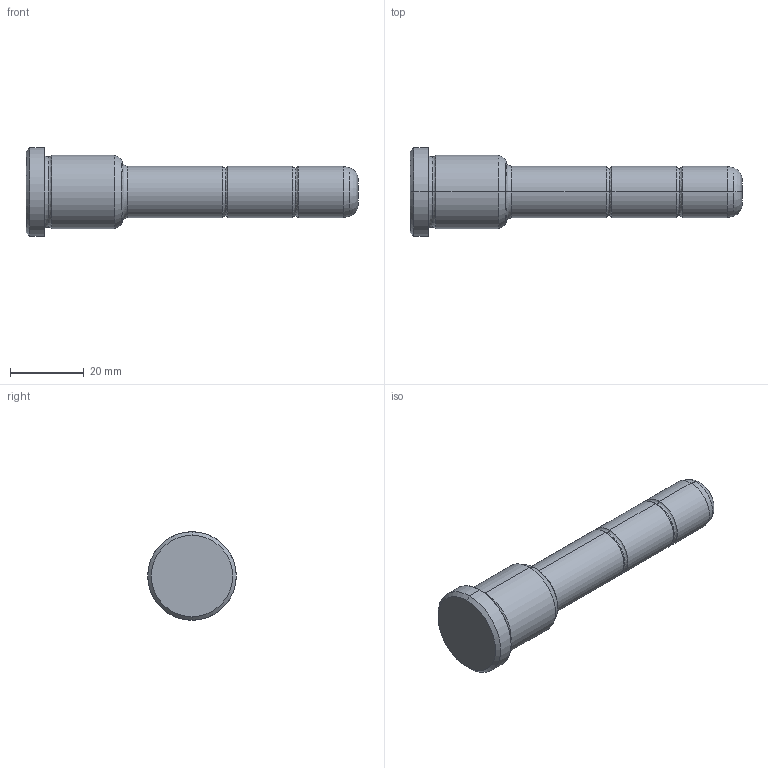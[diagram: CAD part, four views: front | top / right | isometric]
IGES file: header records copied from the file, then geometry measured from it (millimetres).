
Start section: START RECORD GO HERE.
Global section: file name: 351-14X26X90.igs; native system: DASSAULT SYSTEMES CATIA V5 R20 - www.3ds.com; preprocessor: CATIA Version 5 Release 20 ; author: Utente; organization: NB04-ASUS; date: 20210818.115444; units: millimetre
Bounding box: 90 x 24 x 24 mm (x, y, z)
Surface area: 5253 mm2 (no closed solid volume)
Topology: 0 solids, 0 shells, 36 faces, 204 edges, 204 vertices
Faces by surface type: revolution 32, plane 4
